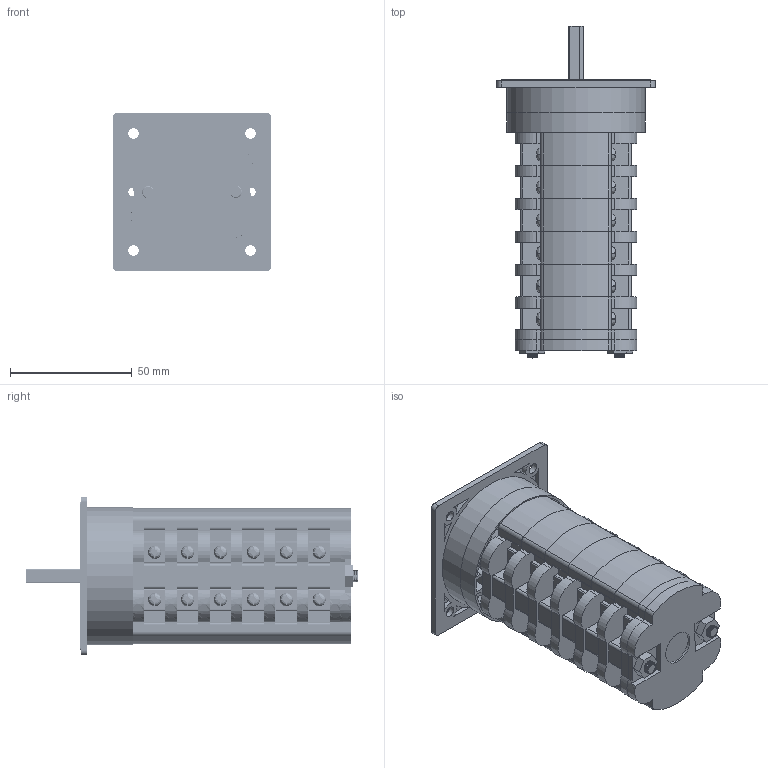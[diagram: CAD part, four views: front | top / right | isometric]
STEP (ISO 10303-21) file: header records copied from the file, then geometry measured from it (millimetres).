
FILE_DESCRIPTION(/* description */ (''),/* implementation_level */ '2;1');
FILE_NAME(/* name */ '4G16,25_standard_6_korpusow.stp',/* time_stamp */ '2021-07-16T10:52:09+02:00',/* author */ (''),/* organization */ (''),/* preprocessor_version */ 'ST-DEVELOPER v18.1',/* originating_system */ 'SIEMENS PLM Software NX 1965',/* authorisation */ '');
FILE_SCHEMA (('AUTOMOTIVE_DESIGN { 1 0 10303 214 3 1 1 1 }'));
Products named in the file (1): 4G16,25_standard
Bounding box: 65 x 136.2 x 65 mm (x, y, z)
Volume: 224123 mm3; surface area: 84284.6 mm2
Topology: 37 solids, 37 shells, 1481 faces, 4014 edges, 2650 vertices
Faces by surface type: plane 842, cylinder 410, bspline 140, cone 49, extrusion 40
Full cylindrical faces by diameter (mm): 3.3 x3, 4 x4, 4.3 x4, 5 x2, 5.4 x26, 6.5 x2, 7.2 x4, 10 x1, 14 x1, 57 x2
Entity records: 158431 total; most frequent: CARTESIAN_POINT 112756, ORIENTED_EDGE 7738, DIRECTION 6558, EDGE_CURVE 3869, VERTEX_POINT 2583, AXIS2_PLACEMENT_3D 2311, VECTOR 1936, LINE 1896
